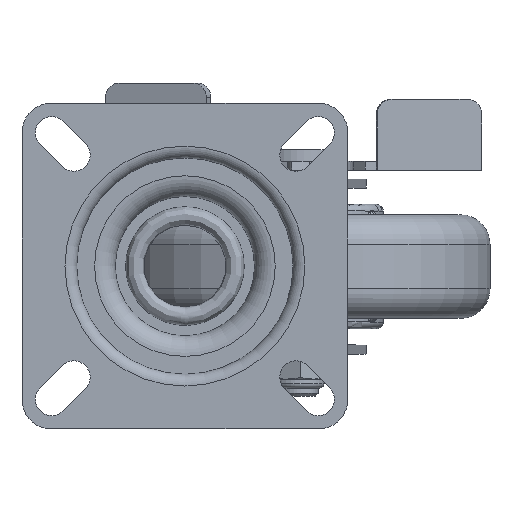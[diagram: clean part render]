
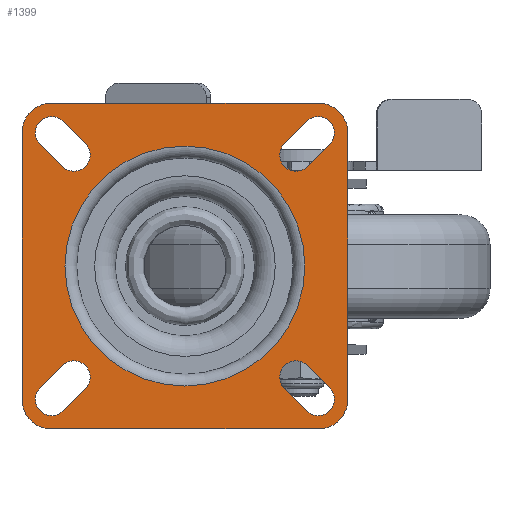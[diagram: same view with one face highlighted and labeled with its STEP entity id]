
A CAD part, top view. The second image highlights one B-rep face of the part: STEP entity #1399.
In plain terms, the highlighted planar face has unit normal (0, 0, 1).
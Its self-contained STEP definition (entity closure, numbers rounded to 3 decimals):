
#1399=ADVANCED_FACE('',(#4701,#4702,#4703,#4704,#4705,#4706),#2272,.T.);
#2272=PLANE('',#14423);
#2666=LINE('',#19803,#3347);
#2667=LINE('',#19808,#3348);
#2668=LINE('',#19814,#3349);
#2669=LINE('',#19818,#3350);
#2670=LINE('',#19819,#3351);
#2671=LINE('',#19824,#3352);
#2672=LINE('',#19828,#3353);
#2673=LINE('',#19832,#3354);
#2674=LINE('',#19838,#3355);
#2675=LINE('',#19842,#3356);
#2676=LINE('',#19843,#3357);
#2677=LINE('',#19848,#3358);
#3347=VECTOR('',#15858,1.);
#3348=VECTOR('',#15861,1.);
#3349=VECTOR('',#15866,1.);
#3350=VECTOR('',#15869,1.);
#3351=VECTOR('',#15870,1.);
#3352=VECTOR('',#15873,1.);
#3353=VECTOR('',#15876,1.);
#3354=VECTOR('',#15879,1.);
#3355=VECTOR('',#15884,1.);
#3356=VECTOR('',#15887,1.);
#3357=VECTOR('',#15888,1.);
#3358=VECTOR('',#15891,1.);
#4049=CIRCLE('',#14407,40.5);
#4051=CIRCLE('',#14411,5.5);
#4052=CIRCLE('',#14412,5.5);
#4053=CIRCLE('',#14413,5.5);
#4054=CIRCLE('',#14414,5.5);
#4055=CIRCLE('',#14415,10.);
#4056=CIRCLE('',#14416,10.);
#4057=CIRCLE('',#14417,10.);
#4058=CIRCLE('',#14418,10.);
#4059=CIRCLE('',#14419,5.5);
#4060=CIRCLE('',#14420,5.5);
#4061=CIRCLE('',#14421,5.5);
#4062=CIRCLE('',#14422,5.5);
#4701=FACE_BOUND('',#4944,.T.);
#4702=FACE_BOUND('',#4945,.T.);
#4703=FACE_BOUND('',#4946,.T.);
#4704=FACE_BOUND('',#4947,.T.);
#4705=FACE_BOUND('',#4948,.T.);
#4706=FACE_BOUND('',#4949,.T.);
#4944=EDGE_LOOP('',(#6137,#6138,#6139,#6140));
#4945=EDGE_LOOP('',(#6141,#6142,#6143,#6144));
#4946=EDGE_LOOP('',(#6145));
#4947=EDGE_LOOP('',(#6146,#6147,#6148,#6149,#6150,#6151,#6152,#6153));
#4948=EDGE_LOOP('',(#6154,#6155,#6156,#6157));
#4949=EDGE_LOOP('',(#6158,#6159,#6160,#6161));
#6137=ORIENTED_EDGE('',*,*,#11696,.F.);
#6138=ORIENTED_EDGE('',*,*,#11697,.T.);
#6139=ORIENTED_EDGE('',*,*,#11698,.F.);
#6140=ORIENTED_EDGE('',*,*,#11699,.T.);
#6141=ORIENTED_EDGE('',*,*,#11700,.F.);
#6142=ORIENTED_EDGE('',*,*,#11701,.T.);
#6143=ORIENTED_EDGE('',*,*,#11702,.F.);
#6144=ORIENTED_EDGE('',*,*,#11703,.T.);
#6145=ORIENTED_EDGE('',*,*,#11694,.T.);
#6146=ORIENTED_EDGE('',*,*,#11704,.T.);
#6147=ORIENTED_EDGE('',*,*,#11705,.T.);
#6148=ORIENTED_EDGE('',*,*,#11706,.F.);
#6149=ORIENTED_EDGE('',*,*,#11707,.T.);
#6150=ORIENTED_EDGE('',*,*,#11708,.T.);
#6151=ORIENTED_EDGE('',*,*,#11709,.T.);
#6152=ORIENTED_EDGE('',*,*,#11710,.F.);
#6153=ORIENTED_EDGE('',*,*,#11711,.T.);
#6154=ORIENTED_EDGE('',*,*,#11712,.F.);
#6155=ORIENTED_EDGE('',*,*,#11713,.T.);
#6156=ORIENTED_EDGE('',*,*,#11714,.F.);
#6157=ORIENTED_EDGE('',*,*,#11715,.T.);
#6158=ORIENTED_EDGE('',*,*,#11716,.F.);
#6159=ORIENTED_EDGE('',*,*,#11717,.T.);
#6160=ORIENTED_EDGE('',*,*,#11718,.F.);
#6161=ORIENTED_EDGE('',*,*,#11719,.T.);
#10349=VERTEX_POINT('',#19798);
#10351=VERTEX_POINT('',#19804);
#10352=VERTEX_POINT('',#19805);
#10353=VERTEX_POINT('',#19807);
#10354=VERTEX_POINT('',#19809);
#10355=VERTEX_POINT('',#19812);
#10356=VERTEX_POINT('',#19813);
#10357=VERTEX_POINT('',#19815);
#10358=VERTEX_POINT('',#19817);
#10359=VERTEX_POINT('',#19820);
#10360=VERTEX_POINT('',#19821);
#10361=VERTEX_POINT('',#19823);
#10362=VERTEX_POINT('',#19825);
#10363=VERTEX_POINT('',#19827);
#10364=VERTEX_POINT('',#19829);
#10365=VERTEX_POINT('',#19831);
#10366=VERTEX_POINT('',#19833);
#10367=VERTEX_POINT('',#19836);
#10368=VERTEX_POINT('',#19837);
#10369=VERTEX_POINT('',#19839);
#10370=VERTEX_POINT('',#19841);
#10371=VERTEX_POINT('',#19844);
#10372=VERTEX_POINT('',#19845);
#10373=VERTEX_POINT('',#19847);
#10374=VERTEX_POINT('',#19849);
#11694=EDGE_CURVE('',#10349,#10349,#4049,.T.);
#11696=EDGE_CURVE('',#10351,#10352,#2666,.T.);
#11697=EDGE_CURVE('',#10351,#10353,#4051,.T.);
#11698=EDGE_CURVE('',#10354,#10353,#2667,.T.);
#11699=EDGE_CURVE('',#10354,#10352,#4052,.T.);
#11700=EDGE_CURVE('',#10355,#10356,#4053,.T.);
#11701=EDGE_CURVE('',#10355,#10357,#2668,.T.);
#11702=EDGE_CURVE('',#10358,#10357,#4054,.T.);
#11703=EDGE_CURVE('',#10358,#10356,#2669,.T.);
#11704=EDGE_CURVE('',#10359,#10360,#2670,.T.);
#11705=EDGE_CURVE('',#10360,#10361,#4055,.T.);
#11706=EDGE_CURVE('',#10362,#10361,#2671,.T.);
#11707=EDGE_CURVE('',#10362,#10363,#4056,.T.);
#11708=EDGE_CURVE('',#10363,#10364,#2672,.T.);
#11709=EDGE_CURVE('',#10364,#10365,#4057,.T.);
#11710=EDGE_CURVE('',#10366,#10365,#2673,.T.);
#11711=EDGE_CURVE('',#10366,#10359,#4058,.T.);
#11712=EDGE_CURVE('',#10367,#10368,#4059,.T.);
#11713=EDGE_CURVE('',#10367,#10369,#2674,.T.);
#11714=EDGE_CURVE('',#10370,#10369,#4060,.T.);
#11715=EDGE_CURVE('',#10370,#10368,#2675,.T.);
#11716=EDGE_CURVE('',#10371,#10372,#2676,.T.);
#11717=EDGE_CURVE('',#10371,#10373,#4061,.T.);
#11718=EDGE_CURVE('',#10374,#10373,#2677,.T.);
#11719=EDGE_CURVE('',#10374,#10372,#4062,.T.);
#14407=AXIS2_PLACEMENT_3D('',#19797,#15850,#15851);
#14411=AXIS2_PLACEMENT_3D('',#19806,#15859,#15860);
#14412=AXIS2_PLACEMENT_3D('',#19810,#15862,#15863);
#14413=AXIS2_PLACEMENT_3D('',#19811,#15864,#15865);
#14414=AXIS2_PLACEMENT_3D('',#19816,#15867,#15868);
#14415=AXIS2_PLACEMENT_3D('',#19822,#15871,#15872);
#14416=AXIS2_PLACEMENT_3D('',#19826,#15874,#15875);
#14417=AXIS2_PLACEMENT_3D('',#19830,#15877,#15878);
#14418=AXIS2_PLACEMENT_3D('',#19834,#15880,#15881);
#14419=AXIS2_PLACEMENT_3D('',#19835,#15882,#15883);
#14420=AXIS2_PLACEMENT_3D('',#19840,#15885,#15886);
#14421=AXIS2_PLACEMENT_3D('',#19846,#15889,#15890);
#14422=AXIS2_PLACEMENT_3D('',#19850,#15892,#15893);
#14423=AXIS2_PLACEMENT_3D('',#19851,#15894,#15895);
#15850=DIRECTION('',(0.,0.,-1.));
#15851=DIRECTION('',(1.,0.,0.));
#15858=DIRECTION('',(0.707,-0.707,0.));
#15859=DIRECTION('',(0.,0.,-1.));
#15860=DIRECTION('',(1.,0.,0.));
#15861=DIRECTION('',(-0.707,0.707,0.));
#15862=DIRECTION('',(0.,0.,-1.));
#15863=DIRECTION('',(1.,0.,0.));
#15864=DIRECTION('',(0.,0.,1.));
#15865=DIRECTION('',(1.,0.,0.));
#15866=DIRECTION('',(0.707,0.707,0.));
#15867=DIRECTION('',(0.,0.,1.));
#15868=DIRECTION('',(1.,0.,0.));
#15869=DIRECTION('',(-0.707,-0.707,0.));
#15870=DIRECTION('',(1.,0.,0.));
#15871=DIRECTION('',(0.,0.,1.));
#15872=DIRECTION('',(1.,0.,0.));
#15873=DIRECTION('',(0.,-1.,0.));
#15874=DIRECTION('',(0.,0.,1.));
#15875=DIRECTION('',(1.,0.,0.));
#15876=DIRECTION('',(-1.,0.,0.));
#15877=DIRECTION('',(0.,0.,1.));
#15878=DIRECTION('',(1.,0.,0.));
#15879=DIRECTION('',(0.,1.,0.));
#15880=DIRECTION('',(0.,0.,1.));
#15881=DIRECTION('',(1.,0.,0.));
#15882=DIRECTION('',(0.,0.,1.));
#15883=DIRECTION('',(-1.,0.,0.));
#15884=DIRECTION('',(-0.707,-0.707,0.));
#15885=DIRECTION('',(0.,0.,1.));
#15886=DIRECTION('',(-1.,0.,0.));
#15887=DIRECTION('',(0.707,0.707,0.));
#15888=DIRECTION('',(-0.707,0.707,0.));
#15889=DIRECTION('',(0.,0.,-1.));
#15890=DIRECTION('',(-1.,0.,0.));
#15891=DIRECTION('',(0.707,-0.707,0.));
#15892=DIRECTION('',(0.,0.,-1.));
#15893=DIRECTION('',(-1.,0.,0.));
#15894=DIRECTION('',(0.,0.,1.));
#15895=DIRECTION('',(-1.,0.,0.));
#19797=CARTESIAN_POINT('',(0.,0.,0.));
#19798=CARTESIAN_POINT('',(40.5,0.,0.));
#19803=CARTESIAN_POINT('',(37.361,-45.139,0.));
#19804=CARTESIAN_POINT('',(33.611,-41.389,0.));
#19805=CARTESIAN_POINT('',(41.111,-48.889,0.));
#19806=CARTESIAN_POINT('',(37.5,-37.5,0.));
#19807=CARTESIAN_POINT('',(41.389,-33.611,0.));
#19808=CARTESIAN_POINT('',(45.139,-37.361,0.));
#19809=CARTESIAN_POINT('',(48.889,-41.111,0.));
#19810=CARTESIAN_POINT('',(45.,-45.,0.));
#19811=CARTESIAN_POINT('',(37.5,37.5,0.));
#19812=CARTESIAN_POINT('',(33.611,41.389,0.));
#19813=CARTESIAN_POINT('',(41.389,33.611,0.));
#19814=CARTESIAN_POINT('',(37.361,45.139,0.));
#19815=CARTESIAN_POINT('',(41.111,48.889,0.));
#19816=CARTESIAN_POINT('',(45.,45.,0.));
#19817=CARTESIAN_POINT('',(48.889,41.111,0.));
#19818=CARTESIAN_POINT('',(45.139,37.361,0.));
#19819=CARTESIAN_POINT('',(-55.,-55.,0.));
#19820=CARTESIAN_POINT('',(-45.,-55.,0.));
#19821=CARTESIAN_POINT('',(45.,-55.,0.));
#19822=CARTESIAN_POINT('',(45.,-45.,0.));
#19823=CARTESIAN_POINT('',(55.,-45.,0.));
#19824=CARTESIAN_POINT('',(55.,0.,0.));
#19825=CARTESIAN_POINT('',(55.,45.,0.));
#19826=CARTESIAN_POINT('',(45.,45.,0.));
#19827=CARTESIAN_POINT('',(45.,55.,0.));
#19828=CARTESIAN_POINT('',(-55.,55.,0.));
#19829=CARTESIAN_POINT('',(-45.,55.,0.));
#19830=CARTESIAN_POINT('',(-45.,45.,0.));
#19831=CARTESIAN_POINT('',(-55.,45.,0.));
#19832=CARTESIAN_POINT('',(-55.,0.,0.));
#19833=CARTESIAN_POINT('',(-55.,-45.,0.));
#19834=CARTESIAN_POINT('',(-45.,-45.,0.));
#19835=CARTESIAN_POINT('',(-37.5,-37.5,0.));
#19836=CARTESIAN_POINT('',(-33.611,-41.389,0.));
#19837=CARTESIAN_POINT('',(-41.389,-33.611,0.));
#19838=CARTESIAN_POINT('',(-37.361,-45.139,0.));
#19839=CARTESIAN_POINT('',(-41.111,-48.889,0.));
#19840=CARTESIAN_POINT('',(-45.,-45.,0.));
#19841=CARTESIAN_POINT('',(-48.889,-41.111,0.));
#19842=CARTESIAN_POINT('',(-45.139,-37.361,0.));
#19843=CARTESIAN_POINT('',(-37.361,45.139,0.));
#19844=CARTESIAN_POINT('',(-33.611,41.389,0.));
#19845=CARTESIAN_POINT('',(-41.111,48.889,0.));
#19846=CARTESIAN_POINT('',(-37.5,37.5,0.));
#19847=CARTESIAN_POINT('',(-41.389,33.611,0.));
#19848=CARTESIAN_POINT('',(-45.139,37.361,0.));
#19849=CARTESIAN_POINT('',(-48.889,41.111,0.));
#19850=CARTESIAN_POINT('',(-45.,45.,0.));
#19851=CARTESIAN_POINT('',(-55.,0.,0.));
